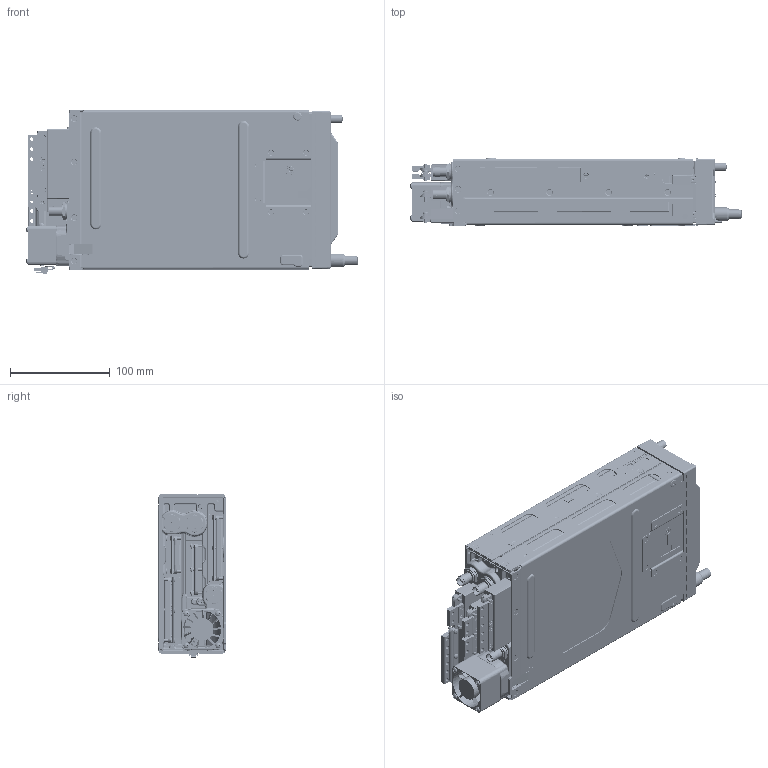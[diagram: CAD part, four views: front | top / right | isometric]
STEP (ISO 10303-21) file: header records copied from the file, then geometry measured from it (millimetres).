
FILE_DESCRIPTION (( 'STEP AP203' ), '1' );
FILE_NAME ('GTN650Xi_011-04631-(00,60)_R[115-01293-00]_B[011-02245-02]_C[011-02325-02]_rev1.STEP', '2020-01-31T15:39:14', ( '' ), ( '' ), 'SwSTEP 2.0', 'SolidWorks 2019', '' );
FILE_SCHEMA (( 'CONFIG_CONTROL_DESIGN' ));
Products named in the file (1): GTN650Xi_011-04631-(00,60)_R[115-01293-00]_B[011-02245-02]_C[011-02325-02]_rev1
Bounding box: 333.26 x 68.96 x 164.43 mm (x, y, z)
Volume: 2717039.3 mm3; surface area: 418088.8 mm2
Topology: 7 solids, 59 shells, 9401 faces, 23554 edges, 15102 vertices
Faces by surface type: plane 4519, cylinder 2271, bspline 1662, cone 494, torus 331, sphere 124
Full cylindrical faces by diameter (mm): 0.73 x44, 0.762 x94, 1.397 x216, 1.52 x3, 1.524 x78, 1.6 x1, 1.702 x4, 1.981 x4, 2.032 x4, 2.184 x2, 2.261 x12, 2.54 x4, 2.705 x1, 2.845 x64, 2.921 x1, 2.972 x7, 3.048 x10, 3.251 x1, 3.264 x23, 3.302 x13, 3.454 x18, 3.81 x2, 4.15 x6, 4.318 x1, 4.572 x3, 4.699 x3, 4.7 x3, 4.826 x2, 4.89 x1, 5.207 x1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
Entity records: 360768 total; most frequent: CARTESIAN_POINT 155553, ORIENTED_EDGE 43914, DIRECTION 37878, EDGE_CURVE 21957, VERTEX_POINT 14613, AXIS2_PLACEMENT_3D 13493, EDGE_LOOP 11656, LINE 10892
